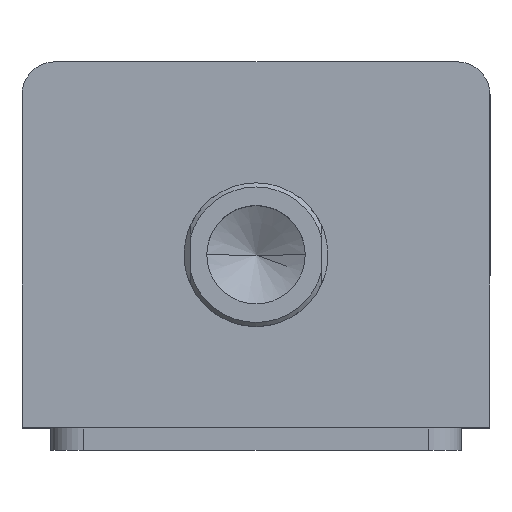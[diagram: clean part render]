
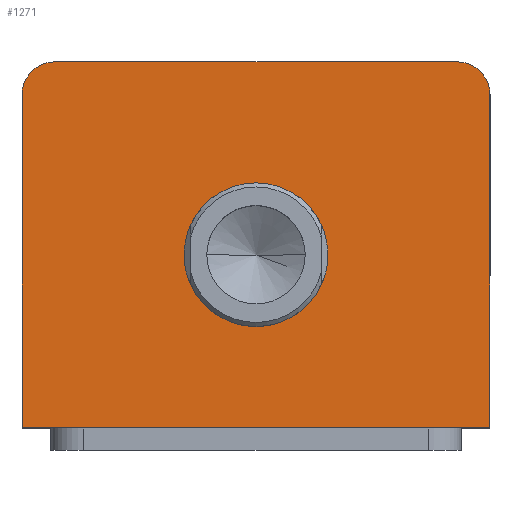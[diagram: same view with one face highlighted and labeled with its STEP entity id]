
A CAD part, top view. The second image highlights one B-rep face of the part: STEP entity #1271.
In plain terms, the highlighted planar face has unit normal (0, 0, 1).
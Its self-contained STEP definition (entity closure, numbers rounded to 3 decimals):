
#12 = VERTEX_POINT ( 'NONE', #765 ) ;
#21 = VERTEX_POINT ( 'NONE', #756 ) ;
#24 = VERTEX_POINT ( 'NONE', #753 ) ;
#109 = VECTOR ( 'NONE', #2083, 1000. ) ;
#135 = EDGE_CURVE ( 'NONE', #1371, #1882, #193, .T. ) ;
#175 = LINE ( 'NONE', #2084, #109 ) ;
#190 = VECTOR ( 'NONE', #2127, 1000. ) ;
#193 = LINE ( 'NONE', #2097, #190 ) ;
#237 = CARTESIAN_POINT ( 'NONE',  ( -17.5, -2.5, 152. ) ) ;
#244 = CARTESIAN_POINT ( 'NONE',  ( 17.5, -2.5, 152. ) ) ;
#245 = CARTESIAN_POINT ( 'NONE',  ( 57., -44.5, 152. ) ) ;
#515 = EDGE_CURVE ( 'NONE', #12, #1379, #1215, .T. ) ;
#651 = EDGE_CURVE ( 'NONE', #21, #24, #175, .T. ) ;
#753 = CARTESIAN_POINT ( 'NONE',  ( -49., 44.5, 152. ) ) ;
#756 = CARTESIAN_POINT ( 'NONE',  ( 49., 44.5, 152. ) ) ;
#765 = CARTESIAN_POINT ( 'NONE',  ( -57., 36.5, 152. ) ) ;
#814 = CIRCLE ( 'NONE', #2510, 8. ) ;
#825 = CIRCLE ( 'NONE', #2517, 8. ) ;
#933 = CIRCLE ( 'NONE', #2555, 17.5 ) ;
#941 = CIRCLE ( 'NONE', #2557, 17.5 ) ;
#969 = LINE ( 'NONE', #3106, #986 ) ;
#986 = VECTOR ( 'NONE', #3109, 1000. ) ;
#1208 = VECTOR ( 'NONE', #2060, 1000. ) ;
#1215 = LINE ( 'NONE', #2073, #1208 ) ;
#1271 = ADVANCED_FACE ( 'NONE', ( #3119, #3114 ), #2027, .T. ) ;
#1364 = VERTEX_POINT ( 'NONE', #244 ) ;
#1369 = VERTEX_POINT ( 'NONE', #237 ) ;
#1371 = VERTEX_POINT ( 'NONE', #245 ) ;
#1379 = VERTEX_POINT ( 'NONE', #3342 ) ;
#1382 = ORIENTED_EDGE ( 'NONE', *, *, #1944, .T. ) ;
#1388 = ORIENTED_EDGE ( 'NONE', *, *, #2350, .F. ) ;
#1414 = ORIENTED_EDGE ( 'NONE', *, *, #2353, .F. ) ;
#1415 = ORIENTED_EDGE ( 'NONE', *, *, #651, .T. ) ;
#1882 = VERTEX_POINT ( 'NONE', #3202 ) ;
#1935 = EDGE_CURVE ( 'NONE', #1882, #21, #814, .T. ) ;
#1944 = EDGE_CURVE ( 'NONE', #24, #12, #825, .T. ) ;
#2021 = DIRECTION ( 'NONE',  ( 1., 0., 0. ) ) ;
#2022 = DIRECTION ( 'NONE',  ( 0., 0., 1. ) ) ;
#2027 = PLANE ( 'NONE',  #2400 ) ;
#2028 = CARTESIAN_POINT ( 'NONE',  ( 0., 0., 152. ) ) ;
#2060 = DIRECTION ( 'NONE',  ( 0., -1., 0. ) ) ;
#2073 = CARTESIAN_POINT ( 'NONE',  ( -57., 44.5, 152. ) ) ;
#2083 = DIRECTION ( 'NONE',  ( -1., 0., 0. ) ) ;
#2084 = CARTESIAN_POINT ( 'NONE',  ( -57., 44.5, 152. ) ) ;
#2097 = CARTESIAN_POINT ( 'NONE',  ( 57., 44.5, 152. ) ) ;
#2127 = DIRECTION ( 'NONE',  ( 0., 1., 0. ) ) ;
#2350 = EDGE_CURVE ( 'NONE', #1364, #1369, #933, .T. ) ;
#2353 = EDGE_CURVE ( 'NONE', #1369, #1364, #941, .T. ) ;
#2400 = AXIS2_PLACEMENT_3D ( 'NONE', #2028, #2022, #2021 ) ;
#2510 = AXIS2_PLACEMENT_3D ( 'NONE', #3249, #3247, #3246 ) ;
#2517 = AXIS2_PLACEMENT_3D ( 'NONE', #3201, #3200, #3199 ) ;
#2555 = AXIS2_PLACEMENT_3D ( 'NONE', #2730, #2729, #2728 ) ;
#2557 = AXIS2_PLACEMENT_3D ( 'NONE', #2717, #2715, #2714 ) ;
#2714 = DIRECTION ( 'NONE',  ( 1., 0., 0. ) ) ;
#2715 = DIRECTION ( 'NONE',  ( 0., 0., 1. ) ) ;
#2717 = CARTESIAN_POINT ( 'NONE',  ( 0., -2.5, 152. ) ) ;
#2728 = DIRECTION ( 'NONE',  ( 1., 0., 0. ) ) ;
#2729 = DIRECTION ( 'NONE',  ( 0., 0., 1. ) ) ;
#2730 = CARTESIAN_POINT ( 'NONE',  ( 0., -2.5, 152. ) ) ;
#2900 = ORIENTED_EDGE ( 'NONE', *, *, #1935, .T. ) ;
#2904 = ORIENTED_EDGE ( 'NONE', *, *, #3481, .T. ) ;
#2905 = ORIENTED_EDGE ( 'NONE', *, *, #515, .T. ) ;
#2920 = ORIENTED_EDGE ( 'NONE', *, *, #135, .T. ) ;
#3106 = CARTESIAN_POINT ( 'NONE',  ( -57., -44.5, 152. ) ) ;
#3109 = DIRECTION ( 'NONE',  ( 1., 0., 0. ) ) ;
#3114 = FACE_OUTER_BOUND ( 'NONE', #3389, .T. ) ;
#3119 = FACE_BOUND ( 'NONE', #3453, .T. ) ;
#3199 = DIRECTION ( 'NONE',  ( 1., 0., 0. ) ) ;
#3200 = DIRECTION ( 'NONE',  ( 0., 0., 1. ) ) ;
#3201 = CARTESIAN_POINT ( 'NONE',  ( -49., 36.5, 152. ) ) ;
#3202 = CARTESIAN_POINT ( 'NONE',  ( 57., 36.5, 152. ) ) ;
#3246 = DIRECTION ( 'NONE',  ( 1., 0., 0. ) ) ;
#3247 = DIRECTION ( 'NONE',  ( 0., 0., 1. ) ) ;
#3249 = CARTESIAN_POINT ( 'NONE',  ( 49., 36.5, 152. ) ) ;
#3342 = CARTESIAN_POINT ( 'NONE',  ( -57., -44.5, 152. ) ) ;
#3389 = EDGE_LOOP ( 'NONE', ( #1415, #1382, #2905, #2904, #2920, #2900 ) ) ;
#3453 = EDGE_LOOP ( 'NONE', ( #1388, #1414 ) ) ;
#3481 = EDGE_CURVE ( 'NONE', #1379, #1371, #969, .T. ) ;
